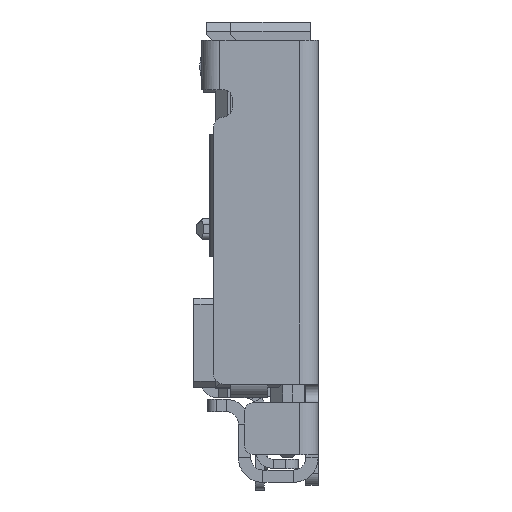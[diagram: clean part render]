
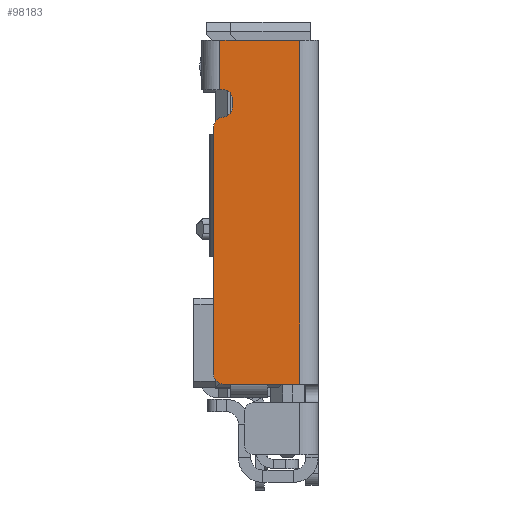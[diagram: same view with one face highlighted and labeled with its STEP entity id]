
A CAD part, left-side view. The second image highlights one B-rep face of the part: STEP entity #98183.
In plain terms, the highlighted planar face has unit normal (-1, 0, 0).
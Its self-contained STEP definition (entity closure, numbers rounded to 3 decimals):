
#92866=DIRECTION('',(0.,0.,-1.));
#92867=VECTOR('',#92866,5.6);
#92868=CARTESIAN_POINT('',(-10.5,0.3,0.));
#92869=LINE('',#92868,#92867);
#92873=CARTESIAN_POINT('',(-10.5,1.55,-1.4));
#92874=DIRECTION('',(-1.,0.,0.));
#92875=DIRECTION('',(0.,0.,1.));
#92876=AXIS2_PLACEMENT_3D('',#92873,#92874,#92875);
#92881=DIRECTION('',(0.,0.,-1.));
#92882=VECTOR('',#92881,0.15);
#92883=CARTESIAN_POINT('',(-10.5,1.4,-0.95));
#92884=LINE('',#92883,#92882);
#92888=DIRECTION('',(0.,-1.,0.));
#92889=VECTOR('',#92888,0.05);
#92890=CARTESIAN_POINT('',(-10.5,1.6,-0.8));
#92891=LINE('',#92890,#92889);
#92895=DIRECTION('',(0.,-1.,0.));
#92896=VECTOR('',#92895,1.25);
#92897=CARTESIAN_POINT('',(-10.5,1.55,-5.6));
#92898=LINE('',#92897,#92896);
#92902=CARTESIAN_POINT('',(-10.5,1.55,-5.45));
#92903=DIRECTION('',(-1.,0.,0.));
#92904=DIRECTION('',(0.,1.,0.));
#92905=AXIS2_PLACEMENT_3D('',#92902,#92903,#92904);
#92910=DIRECTION('',(0.,0.,-1.));
#92911=VECTOR('',#92910,4.05);
#92912=CARTESIAN_POINT('',(-10.5,1.7,-1.4));
#92913=LINE('',#92912,#92911);
#93041=DIRECTION('',(0.,-1.,0.));
#93042=VECTOR('',#93041,1.3);
#93043=CARTESIAN_POINT('',(-10.5,1.6,0.));
#93044=LINE('',#93043,#93042);
#93071=DIRECTION('',(0.,0.,1.));
#93072=VECTOR('',#93071,0.8);
#93073=CARTESIAN_POINT('',(-10.5,1.6,-0.8));
#93074=LINE('',#93073,#93072);
#93116=CARTESIAN_POINT('',(-10.5,1.55,-0.95));
#93117=DIRECTION('',(1.,0.,0.));
#93118=DIRECTION('',(0.,0.,1.));
#93119=AXIS2_PLACEMENT_3D('',#93116,#93117,#93118);
#93153=CARTESIAN_POINT('',(-10.5,1.55,-1.1));
#93154=DIRECTION('',(1.,0.,0.));
#93155=DIRECTION('',(0.,-1.,0.));
#93156=AXIS2_PLACEMENT_3D('',#93153,#93154,#93155);
#94852=CARTESIAN_POINT('',(-10.5,0.3,0.));
#94854=VERTEX_POINT('',#94852);
#94988=CARTESIAN_POINT('',(-10.5,1.6,-0.8));
#94990=VERTEX_POINT('',#94988);
#94992=CARTESIAN_POINT('',(-10.5,1.6,0.));
#94993=VERTEX_POINT('',#94992);
#95008=CARTESIAN_POINT('',(-10.5,0.3,-5.6));
#95010=VERTEX_POINT('',#95008);
#95260=CARTESIAN_POINT('',(-10.5,1.7,-5.45));
#95261=CARTESIAN_POINT('',(-10.5,1.55,-5.6));
#95262=VERTEX_POINT('',#95260);
#95263=VERTEX_POINT('',#95261);
#95593=CARTESIAN_POINT('',(-10.5,1.4,-1.1));
#95595=VERTEX_POINT('',#95593);
#95600=CARTESIAN_POINT('',(-10.5,1.4,-0.95));
#95601=VERTEX_POINT('',#95600);
#95608=CARTESIAN_POINT('',(-10.5,1.55,-1.25));
#95609=CARTESIAN_POINT('',(-10.5,1.7,-1.4));
#95610=VERTEX_POINT('',#95608);
#95611=VERTEX_POINT('',#95609);
#95625=CARTESIAN_POINT('',(-10.5,1.55,-0.8));
#95627=VERTEX_POINT('',#95625);
#98155=CARTESIAN_POINT('',(-10.5,1.7,0.));
#98156=DIRECTION('',(-1.,0.,0.));
#98157=DIRECTION('',(0.,-1.,0.));
#98158=AXIS2_PLACEMENT_3D('',#98155,#98156,#98157);
#98159=PLANE('',#98158);
#98161=ORIENTED_EDGE('',*,*,#98160,.F.);
#98163=ORIENTED_EDGE('',*,*,#98162,.F.);
#98165=ORIENTED_EDGE('',*,*,#98164,.F.);
#98167=ORIENTED_EDGE('',*,*,#98166,.F.);
#98169=ORIENTED_EDGE('',*,*,#98168,.F.);
#98171=ORIENTED_EDGE('',*,*,#98170,.T.);
#98173=ORIENTED_EDGE('',*,*,#98172,.T.);
#98174=ORIENTED_EDGE('',*,*,#98147,.T.);
#98176=ORIENTED_EDGE('',*,*,#98175,.F.);
#98178=ORIENTED_EDGE('',*,*,#98177,.F.);
#98180=ORIENTED_EDGE('',*,*,#98179,.F.);
#98181=EDGE_LOOP('',(#98161,#98163,#98165,#98167,#98169,#98171,#98173,#98174,
#98176,#98178,#98180));
#98182=FACE_OUTER_BOUND('',#98181,.F.);
#98183=ADVANCED_FACE('',(#98182),#98159,.T.);
#92877=CIRCLE('',#92876,0.15);
#92906=CIRCLE('',#92905,0.15);
#93120=CIRCLE('',#93119,0.15);
#93157=CIRCLE('',#93156,0.15);
#98147=EDGE_CURVE('',#94854,#95010,#92869,.T.);
#98160=EDGE_CURVE('',#95610,#95611,#92877,.T.);
#98162=EDGE_CURVE('',#95595,#95610,#93157,.T.);
#98164=EDGE_CURVE('',#95601,#95595,#92884,.T.);
#98166=EDGE_CURVE('',#95627,#95601,#93120,.T.);
#98168=EDGE_CURVE('',#94990,#95627,#92891,.T.);
#98170=EDGE_CURVE('',#94990,#94993,#93074,.T.);
#98172=EDGE_CURVE('',#94993,#94854,#93044,.T.);
#98175=EDGE_CURVE('',#95263,#95010,#92898,.T.);
#98177=EDGE_CURVE('',#95262,#95263,#92906,.T.);
#98179=EDGE_CURVE('',#95611,#95262,#92913,.T.);
